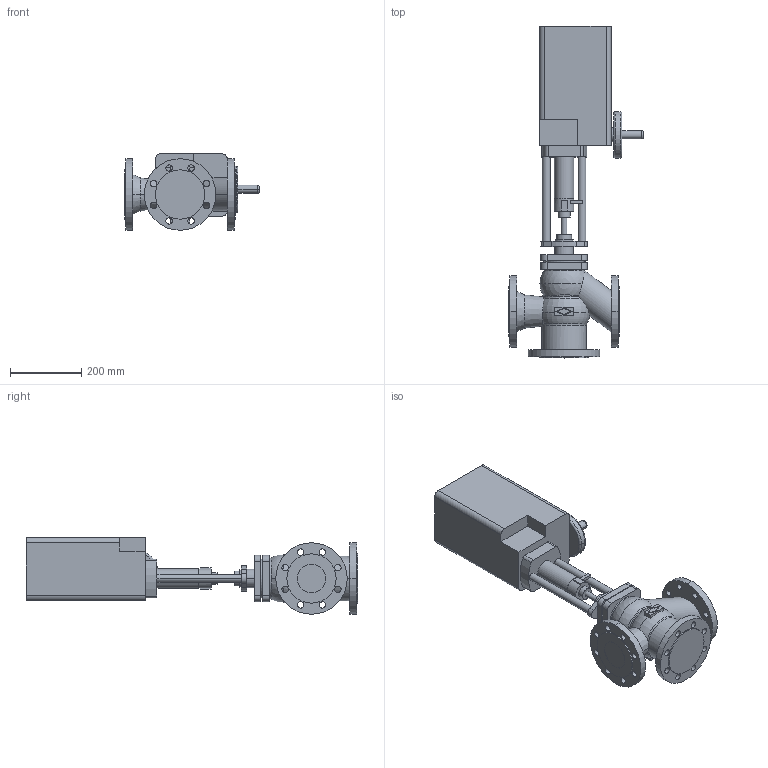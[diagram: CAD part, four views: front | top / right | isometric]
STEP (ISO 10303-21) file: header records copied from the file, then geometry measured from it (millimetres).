
FILE_DESCRIPTION(('OneSpaceDesigner STEP Export'),'2;1');
FILE_NAME('c000002402.stp','2006-09-19T12:02:09',(''),(''),'OneSpace Designer STEP processor for AP214 (Solid Model)','OneSpace Designer 13.20A 18-Aug-2005 (C) CoCreate Software GmbH','');
FILE_SCHEMA(('AUTOMOTIVE_DESIGN { 1 0 10303 214 1 1 1 1 }'));
Length unit declared in the file: millimetre
Products named in the file (2): 1; 2
Bounding box: 376.6 x 929 x 214 mm (x, y, z)
Volume: 19380836.1 mm3; surface area: 849278.9 mm2
Topology: 2 solids, 2 shells, 232 faces, 587 edges, 384 vertices
Faces by surface type: cylinder 118, plane 90, torus 16, sphere 4, cone 4
Entity records: 6518 total; most frequent: CARTESIAN_POINT 1288, ORIENTED_EDGE 1166, DIRECTION 957, EDGE_CURVE 583, VERTEX_POINT 384, AXIS2_PLACEMENT_3D 346, EDGE_LOOP 309, VECTOR 265
